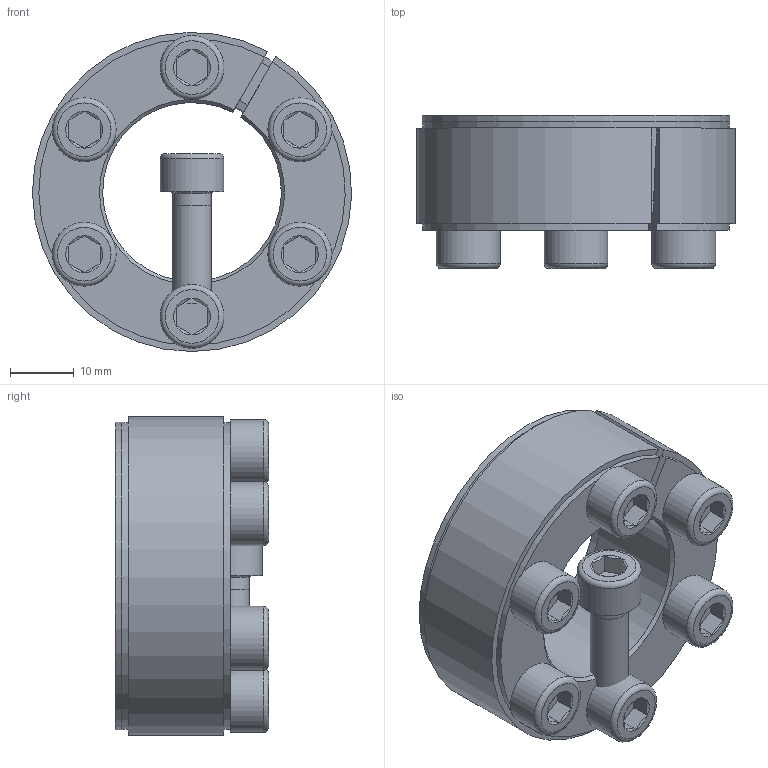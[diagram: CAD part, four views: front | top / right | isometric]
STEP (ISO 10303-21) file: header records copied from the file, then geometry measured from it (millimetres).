
FILE_DESCRIPTION( ( 'Unknown' ), '1' );
FILE_NAME( 'C:/Dokumente und Einstellungen/Sven/Desktop/homepage/cad - homepage/KBS52/KBS 52 - 28 x 50.stp', 'Unknown', ( 'Unknown' ), ( 'Unknown' ), 'XStep 1.0', 'Unknown', ' ' );
FILE_SCHEMA( ( 'automotive_design' ) );
Length unit declared in the file: millimetre
Products named in the file (3): Assem1; KBS 52 - 28 x 50; ISO EN DIN 4762 M6x18
Bounding box: 49.99 x 24 x 49.99 mm (x, y, z)
Volume: 47321 mm3; surface area: 22989 mm2
Topology: 9 solids, 9 shells, 227 faces, 453 edges, 270 vertices
Faces by surface type: plane 110, cone 55, cylinder 48, torus 14
Full cylindrical faces by diameter (mm): 5 x7, 6 x26, 10 x7, 48.175 x2
Entity records: 1645 total; most frequent: CARTESIAN_POINT 271, DIRECTION 247, ORIENTED_EDGE 188, AXIS2_PLACEMENT_3D 102, EDGE_CURVE 94, EDGE_LOOP 84, VERTEX_POINT 66, FACE_OUTER_BOUND 64
